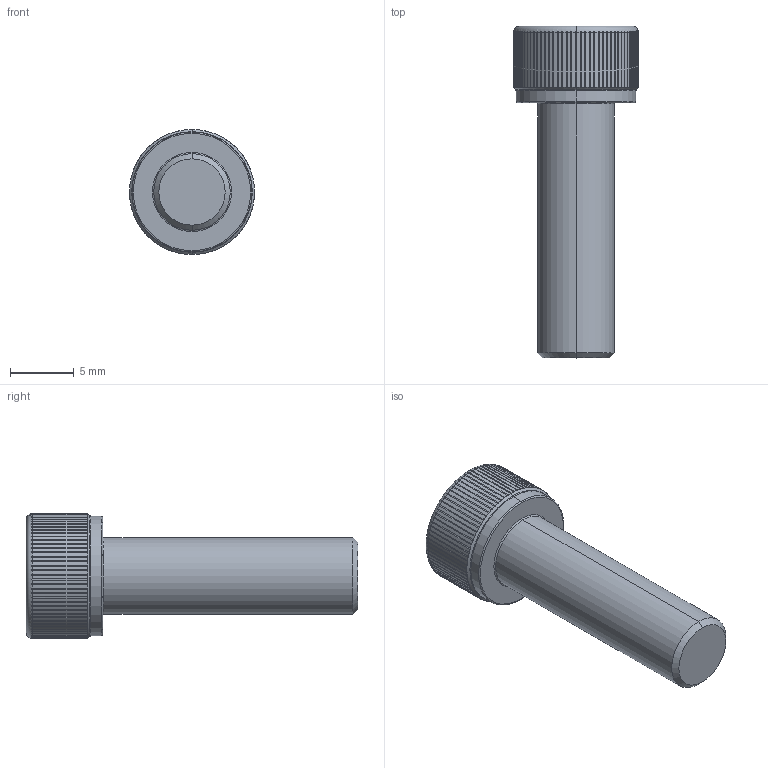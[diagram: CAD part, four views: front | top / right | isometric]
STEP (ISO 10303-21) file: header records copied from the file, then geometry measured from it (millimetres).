
FILE_DESCRIPTION (( 'STEP AP203' ), '1' );
FILE_NAME ('LGDT-304-M6x20.STEP', '2026-08-10T04:34:59', ( '' ), ( '' ), 'SwSTEP 2.0', 'SolidWorks 2020', '' );
FILE_SCHEMA (( 'CONFIG_CONTROL_DESIGN' ));
Length unit declared in the file: millimetre
Products named in the file (1): LGDT-304-M6x20
Bounding box: 9.8 x 26 x 9.8 mm (x, y, z)
Volume: 932.2 mm3; surface area: 754.8 mm2
Topology: 1 solids, 1 shells, 216 faces, 612 edges, 400 vertices
Faces by surface type: cylinder 187, cone 11, plane 10, torus 8
Entity records: 8880 total; most frequent: CARTESIAN_POINT 3409, ORIENTED_EDGE 1224, DIRECTION 1048, EDGE_CURVE 612, AXIS2_PLACEMENT_3D 422, VERTEX_POINT 400, EDGE_LOOP 218, FACE_OUTER_BOUND 216
